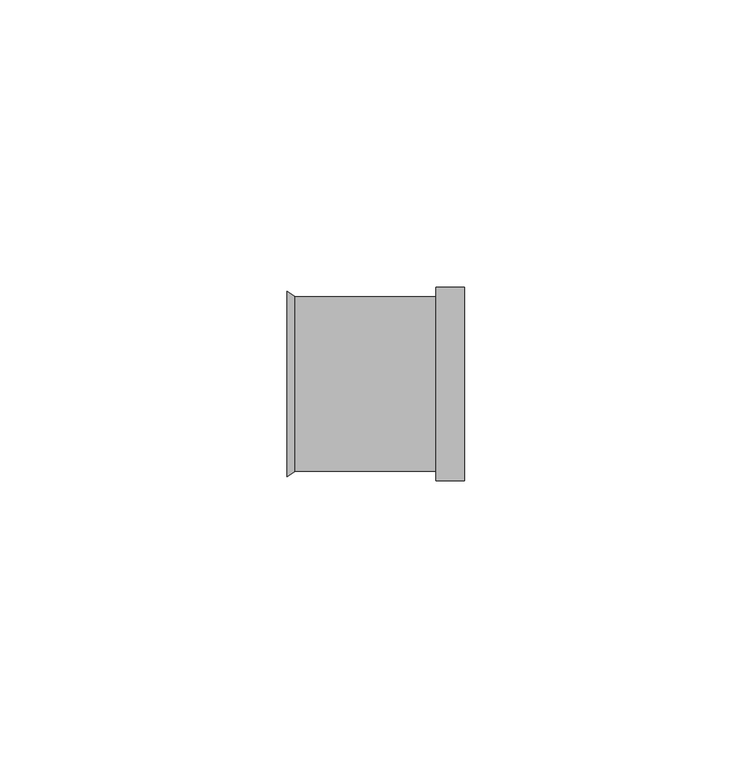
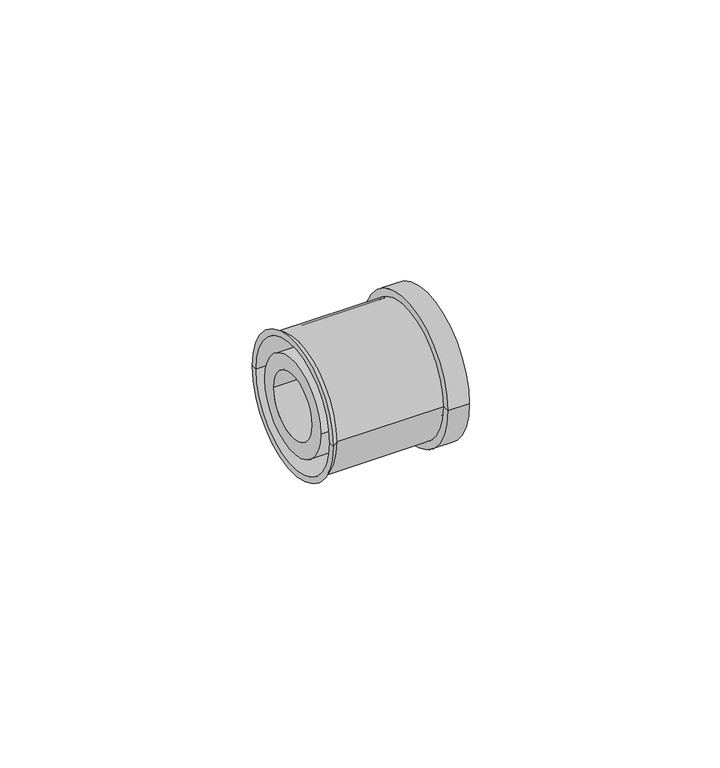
"""IFC4 building model written with IfcOpenShell, lengths in millimetres: pipe fitting geometry, AmancoWavin_Unionesdetubería_TigrisFlexZNoUsarCampana : Tigris K5."""

from ifc_helpers import new_model, si_unit, point, frame, origin, origin_2d, place, context, project, spatial, polyline, circle_curve, trimmed, segment, composite_curve, outline, extrude, source, transform, mapped, element, save
from ifc_brep_helpers import plane_surface, cylinder_surface, revolved_surface, advanced_brep


def pipe_fitting_14b67e64(model_context):
    return source(origin(), model_context, "Body", "SolidModel", [
        advanced_brep(
        [(-4.0, -15.2, 0.0), (-4.0, 15.2, 0.0), (-4.0, 16.8888889, 0.0), (-4.0, -16.8888889, 0.0), (-28.5489984, -15.2, 0.0), (-28.5489984, 15.2, 0.0), (-30.0, -14.8, 0.0), (-30.0, 14.8, 0.0), (-30.0, 16.2, 0.0), (-30.0, -16.2, 0.0), (-4.0, -14.8, 0.0), (-4.0, 14.8, 0.0), (-4.0, 0.0, 0.0), (1.0, -16.8888889, 0.0), (1.0, 16.8888889, 0.0), (1.0, 0.0, 0.0)],
        [
            (0, 1, circle_curve(frame((-4.0, 0.0, 0.0), z_axis=(1.0, 0.0, 0.0), x_axis=(0.0, 1.0, 0.0)), 15.2)),
            (1, 2),
            (2, 3, circle_curve(frame((-4.0, 0.0, 0.0), z_axis=(-1.0, 0.0, 0.0), x_axis=(0.0, 1.0, 0.0)), 16.8888889)),
            (3, 0),
            (1, 0, circle_curve(frame((-4.0, 0.0, 0.0), z_axis=(1.0, 0.0, 0.0), x_axis=(0.0, 1.0, 0.0)), 15.2)),
            (3, 2, circle_curve(frame((-4.0, 0.0, 0.0), z_axis=(-1.0, 0.0, 0.0), x_axis=(0.0, 1.0, 0.0)), 16.8888889)),
            (4, 5, circle_curve(frame((-28.5489984, 0.0, 0.0), z_axis=(1.0, 0.0, 0.0), x_axis=(0.0, 1.0, 0.0)), 15.2)),
            (5, 1),
            (0, 4),
            (5, 4, circle_curve(frame((-28.5489984, 0.0, 0.0), z_axis=(1.0, 0.0, 0.0), x_axis=(0.0, 1.0, 0.0)), 15.2)),
            (6, 7, circle_curve(frame((-30.0, 0.0, 0.0), z_axis=(1.0, 0.0, 0.0), x_axis=(0.0, 1.0, 0.0)), 14.8)),
            (7, 8),
            (8, 9, circle_curve(frame((-30.0, 0.0, 0.0), z_axis=(-1.0, 0.0, 0.0), x_axis=(0.0, 1.0, 0.0)), 16.2)),
            (9, 6),
            (7, 6, circle_curve(frame((-30.0, 0.0, 0.0), z_axis=(1.0, 0.0, 0.0), x_axis=(0.0, 1.0, 0.0)), 14.8)),
            (9, 8, circle_curve(frame((-30.0, 0.0, 0.0), z_axis=(-1.0, 0.0, 0.0), x_axis=(0.0, 1.0, 0.0)), 16.2)),
            (10, 11, circle_curve(frame((-4.0, 0.0, 0.0), z_axis=(1.0, 0.0, 0.0), x_axis=(0.0, 1.0, 0.0)), 14.8)),
            (11, 7),
            (6, 10),
            (11, 10, circle_curve(frame((-4.0, 0.0, 0.0), z_axis=(1.0, 0.0, 0.0), x_axis=(0.0, 1.0, 0.0)), 14.8)),
            (12, 11),
            (10, 12),
            (13, 14, circle_curve(frame((1.0, 0.0, 0.0), z_axis=(1.0, 0.0, 0.0), x_axis=(0.0, 1.0, 0.0)), 16.8888889)),
            (14, 15),
            (15, 13),
            (14, 13, circle_curve(frame((1.0, 0.0, 0.0), z_axis=(1.0, 0.0, 0.0), x_axis=(0.0, 1.0, 0.0)), 16.8888889)),
            (2, 14),
            (13, 3),
            (8, 5),
            (4, 9),
        ],
        [
            plane_surface(frame((-4.0, 0.0, 0.0), z_axis=(-1.0, 0.0, 0.0), x_axis=(0.0, 1.0, 0.0))),
            cylinder_surface(frame((2000.0, 0.0, 0.0), z_axis=(-1.0, 0.0, 0.0), x_axis=(0.0, 1.0, 0.0)), 15.2),
            plane_surface(frame((-30.0, 0.0, 0.0), z_axis=(-1.0, 0.0, 0.0), x_axis=(0.0, 1.0, 0.0))),
            revolved_surface(polyline([(-30.0, 14.8, 0.0), (-4.0, 14.8, 0.0)]), (2000.0, 0.0, 0.0), (-1.0, 0.0, 0.0)),
            plane_surface(frame((1.0, 0.0, 0.0), z_axis=(1.0, 0.0, 0.0), x_axis=(0.0, 1.0, 0.0))),
            cylinder_surface(frame((2000.0, 0.0, 0.0), z_axis=(-1.0, 0.0, 0.0), x_axis=(0.0, 1.0, 0.0)), 16.8888889),
            revolved_surface(polyline([(-28.5489984, 15.2, 0.0), (-30.0, 16.2, 0.0)]), (2000.0, 0.0, 0.0), (-1.0, 0.0, 0.0)),
        ],
        [
            (0, [[1, 2, 3, 4]]),
            (0, [[5, -4, 6, -2]]),
            (1, [[7, 8, -1, 9]]),
            (1, [[10, -9, -5, -8]]),
            (2, [[11, 12, 13, 14]]),
            (2, [[15, -14, 16, -12]]),
            (3, [[17, 18, -11, 19]]),
            (3, [[20, -19, -15, -18]]),
            (0, [[21, -17, 22]]),
            (0, [[-22, -20, -21]]),
            (4, [[23, 24, 25]]),
            (4, [[26, -25, -24]]),
            (5, [[-3, 27, -23, 28]]),
            (5, [[-6, -28, -26, -27]]),
            (6, [[-13, 29, -7, 30]]),
            (6, [[-16, -30, -10, -29]]),
        ],
    ),
        extrude(outline(composite_curve([segment(trimmed(circle_curve(origin_2d(), 11.2), [point((-11.2, 0.0))], [point((11.2, 0.0))], False, "CARTESIAN"), True, "CONTINUOUS"), segment(trimmed(circle_curve(origin_2d(), 11.2), [point((11.2, 0.0))], [point((-11.2, 0.0))], False, "CARTESIAN"), True, "CONTINUOUS")], self_intersect=False), holes=[composite_curve([segment(trimmed(circle_curve(origin_2d(), 7.6), [point((-7.6, 0.0))], [point((7.6, 0.0))], True, "CARTESIAN"), True, "CONTINUOUS"), segment(trimmed(circle_curve(origin_2d(), 7.6), [point((7.6, 0.0))], [point((-7.6, 0.0))], True, "CARTESIAN"), True, "CONTINUOUS")], self_intersect=False)]), frame((-30.0, 0.0, 0.0), z_axis=(1.0, 0.0, 0.0), x_axis=(0.0, 1.0, 0.0)), (0.0, 0.0, 1.0), 30.0),
    ])


if __name__ == "__main__":
    model = new_model("IFC4")
    model_context = context("Model", 3, world=origin())
    ifc_project = project(units=[si_unit("LENGTHUNIT", "METRE", prefix="MILLI")], contexts=[model_context])
    site = spatial("IfcSite", under=ifc_project)
    building = spatial("IfcBuilding", under=site)
    placement = place(None, origin())
    pipe_fitting_shape = pipe_fitting_14b67e64(model_context)
    element("IfcPipeFitting", 1, ObjectType="AmancoWavin_Unionesdetubería_TigrisFlexZNoUsarCampana : Tigris K5", at=placement, inside=building, context=model_context, shape_type="MappedRepresentation", body=[
        mapped(pipe_fitting_shape, transform((0.0, 0.0, 0.0), x_axis=(1.0, 0.0, 0.0), y_axis=(0.0, 1.0, 0.0), z_axis=(0.0, 0.0, 1.0))),
    ])
    save(model, "model.ifc")
